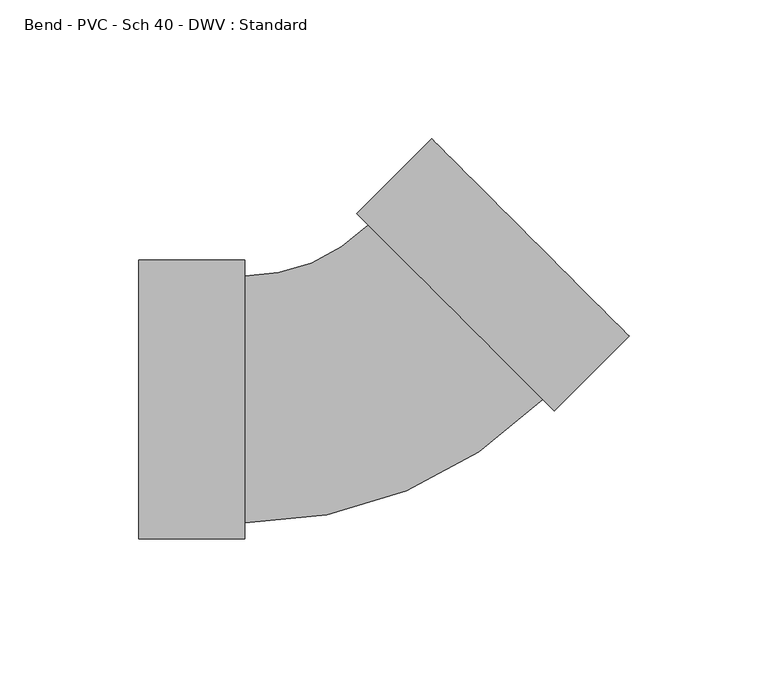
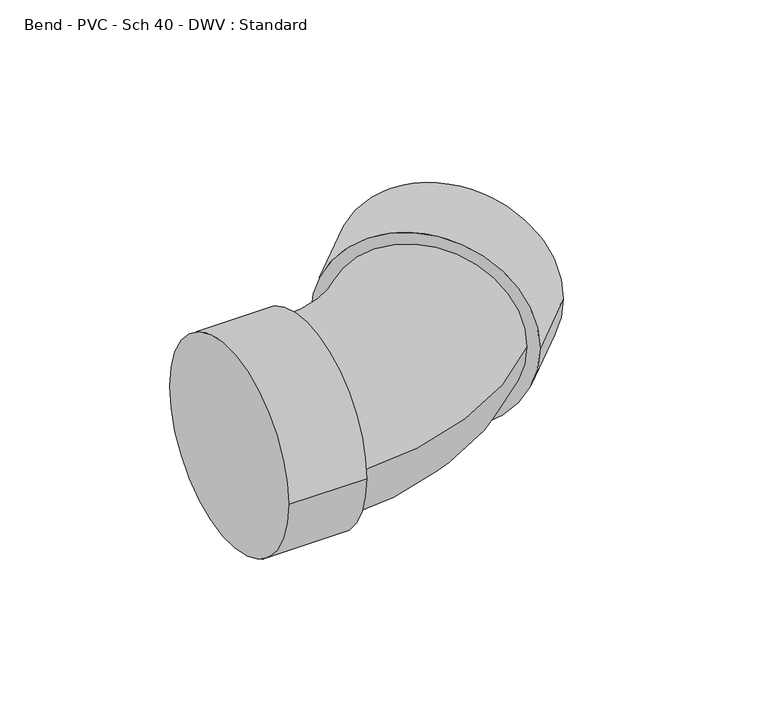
"""IFC4 building model written with IfcOpenShell, lengths in millimetres: pipe fitting geometry, Bend - PVC - Sch 40 - DWV : Standard."""

from ifc_helpers import new_model, si_unit, point, frame, origin, place, context, project, spatial, circle_curve, ellipse_curve, trimmed, source, transform, mapped, element, save
from ifc_brep_helpers import plane_surface, cylinder_surface, revolved_surface, advanced_brep


def bend_pvc_sch_40_dwv_standard_edc13f34(model_context):
    return source(origin(), model_context, "Body", "AdvancedBrep", [
        advanced_brep(
        [(-82.55, -50.2666, 0.0), (-82.55, 50.2666, 0.0), (-44.45, -50.2666, 0.0), (-44.45, 50.2666, 0.0), (-44.45, -44.45, 0.0), (-44.45, 44.45, 0.0), (0.0127424, 62.8617916, 0.0), (62.8617916, -0.0127424, 0.0), (66.9739151, -4.1265334, 0.0), (-4.0993811, 66.9755825, 0.0), (93.9201439, 22.8087734, 0.0), (22.8468478, 93.9108893, 0.0)],
        [
            (0, 1, circle_curve(frame((-82.55, 0.0, 0.0), z_axis=(-1.0, 0.0, 0.0), x_axis=(0.0, 1.0, 0.0)), 50.2666)),
            (1, 0, circle_curve(frame((-82.55, 0.0, 0.0), z_axis=(-1.0, 0.0, 0.0), x_axis=(0.0, 1.0, 0.0)), 50.2666)),
            (2, 3, circle_curve(frame((-44.45, 0.0, 0.0), z_axis=(1.0, 0.0, 0.0), x_axis=(0.0, 1.0, 0.0)), 50.2666)),
            (3, 2, circle_curve(frame((-44.45, 0.0, 0.0), z_axis=(1.0, 0.0, 0.0), x_axis=(0.0, 1.0, 0.0)), 50.2666)),
            (4, 5, circle_curve(frame((-44.45, 0.0, 0.0), z_axis=(-1.0, 0.0, 0.0), x_axis=(0.0, 1.0, 0.0)), 44.45)),
            (5, 4, circle_curve(frame((-44.45, 0.0, 0.0), z_axis=(-1.0, 0.0, 0.0), x_axis=(0.0, 1.0, 0.0)), 44.45)),
            (0, 2),
            (3, 1),
            (6, 5, circle_curve(frame((-44.45, 107.3425633, 0.0), z_axis=(0.0, 0.0, -1.0), x_axis=(0.0, -1.0, 0.0)), 62.8925633)),
            (4, 7, circle_curve(frame((-44.45, 107.3425633, 0.0), z_axis=(0.0, 0.0, 1.0), x_axis=(0.0, -1.0, 0.0)), 151.7925633)),
            (7, 6, circle_curve(frame((31.437267, 31.4245246, 0.0), z_axis=(-0.7072501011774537, -0.7069634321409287, 0.0), x_axis=(-0.7069634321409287, 0.7072501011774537, 0.0)), 44.45)),
            (6, 7, circle_curve(frame((31.437267, 31.4245246, 0.0), z_axis=(-0.7072501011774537, -0.7069634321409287, 0.0), x_axis=(-0.7069634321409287, 0.7072501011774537, 0.0)), 44.45)),
            (8, 9, circle_curve(frame((31.437267, 31.4245246, 0.0), z_axis=(-0.7072501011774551, -0.7069634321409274, 0.0), x_axis=(-0.7069634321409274, 0.7072501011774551, 0.0)), 50.2666)),
            (9, 8, circle_curve(frame((31.437267, 31.4245246, 0.0), z_axis=(-0.7072501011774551, -0.7069634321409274, 0.0), x_axis=(-0.7069634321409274, 0.7072501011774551, 0.0)), 50.2666)),
            (10, 11, circle_curve(frame((58.3834959, 58.3598313, 0.0), z_axis=(0.7072501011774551, 0.7069634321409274, 0.0), x_axis=(-0.7069634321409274, 0.7072501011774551, 0.0)), 50.2666)),
            (11, 10, circle_curve(frame((58.3834959, 58.3598313, 0.0), z_axis=(0.7072501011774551, 0.7069634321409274, 0.0), x_axis=(-0.7069634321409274, 0.7072501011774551, 0.0)), 50.2666)),
            (8, 10),
            (11, 9),
        ],
        [
            plane_surface(frame((-82.55, 0.0, 0.0), z_axis=(-1.0, 0.0, 0.0), x_axis=(0.0, 0.0, 1.0))),
            plane_surface(frame((-44.45, 0.0, 0.0), z_axis=(1.0, 0.0, 0.0), x_axis=(0.0, 0.0, 1.0))),
            cylinder_surface(frame((-82.55, 0.0, 0.0), z_axis=(-1.0, 0.0, 0.0), x_axis=(0.0, 1.0, 0.0)), 50.2666),
            revolved_surface(trimmed(ellipse_curve(frame((-44.45, 0.0, 0.0), z_axis=(-1.0, 0.0, 0.0), x_axis=(0.0, 1.0, 0.0)), 44.45, 44.45), [point((-44.45, -44.45, 0.0))], [point((-44.45, 44.45, 0.0))], True, "CARTESIAN"), (-44.45, 107.3425633, 0.0), (0.0, 0.0, 1.0)),
            revolved_surface(trimmed(ellipse_curve(frame((-44.45, 0.0, 0.0), z_axis=(-1.0, 0.0, 0.0), x_axis=(0.0, 1.0, 0.0)), 44.45, 44.45), [point((-44.45, 44.45, 0.0))], [point((-44.45, -44.45, 0.0))], True, "CARTESIAN"), (-44.45, 107.3425633, 0.0), (0.0, 0.0, 1.0)),
            plane_surface(frame((31.437267, 31.4245246, 0.0), z_axis=(-0.7072501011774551, -0.7069634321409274, 0.0), x_axis=(0.0, 0.0, 1.0))),
            plane_surface(frame((58.3834959, 58.3598313, 0.0), z_axis=(0.7072501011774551, 0.7069634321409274, 0.0), x_axis=(0.0, 0.0, 1.0))),
            cylinder_surface(frame((31.437267, 31.4245246, 0.0), z_axis=(-0.7072501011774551, -0.7069634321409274, 0.0), x_axis=(-0.7069634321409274, 0.7072501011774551, 0.0)), 50.2666),
        ],
        [
            (0, [[1, 2]]),
            (1, [[3, 4], [5, 6]]),
            (2, [[-1, 7, -4, 8]]),
            (2, [[-2, -8, -3, -7]]),
            (3, [[9, -5, 10, 11]]),
            (4, [[-9, 12, -10, -6]]),
            (5, [[13, 14], [-11, -12]]),
            (6, [[15, 16]]),
            (7, [[-13, 17, -16, 18]]),
            (7, [[-14, -18, -15, -17]]),
        ],
    ),
    ])


if __name__ == "__main__":
    model = new_model("IFC4")
    model_context = context("Model", 3, world=origin())
    ifc_project = project(units=[si_unit("LENGTHUNIT", "METRE", prefix="MILLI")], contexts=[model_context])
    site = spatial("IfcSite", under=ifc_project)
    building = spatial("IfcBuilding", under=site)
    placement = place(None, origin())
    bend_pvc_sch_40_dwv_standard_shape = bend_pvc_sch_40_dwv_standard_edc13f34(model_context)
    element("IfcPipeFitting", 1, ObjectType="Bend - PVC - Sch 40 - DWV : Standard", at=placement, inside=building, context=model_context, shape_type="MappedRepresentation", body=[
        mapped(bend_pvc_sch_40_dwv_standard_shape, transform((0.0, 0.0, 0.0), x_axis=(1.0, 0.0, 0.0), y_axis=(0.0, 1.0, 0.0), z_axis=(0.0, 0.0, 1.0))),
    ])
    save(model, "model.ifc")
